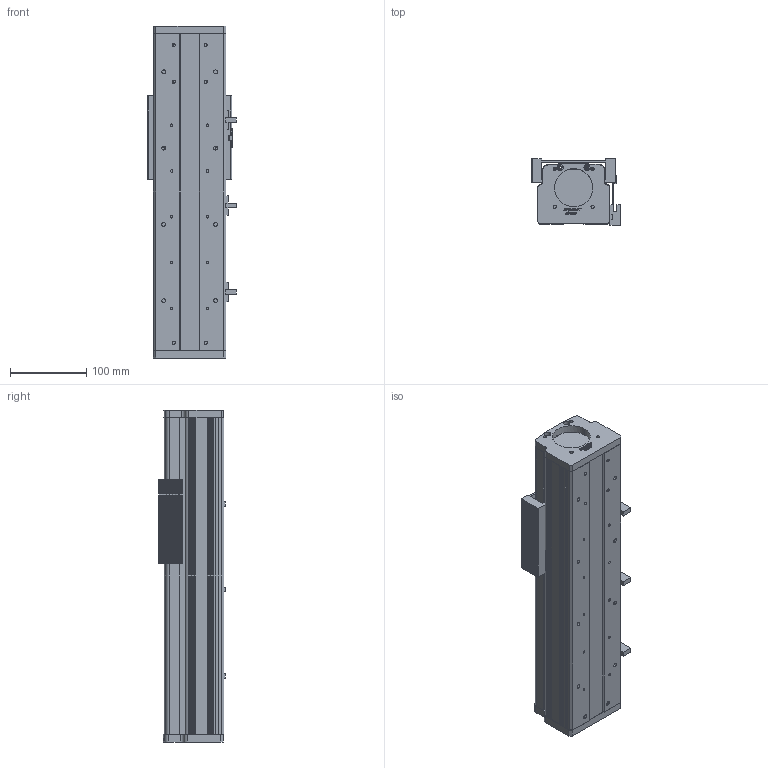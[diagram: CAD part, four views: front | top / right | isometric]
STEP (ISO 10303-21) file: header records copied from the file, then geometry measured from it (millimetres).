
FILE_DESCRIPTION (( 'STEP AP214' ), '1' );
FILE_NAME ('CF95B-C-150-FW.STEP', '2020-07-15T01:47:49', ( '微软用户' ), ( '微软中国' ), 'SwSTEP 2.0', 'SolidWorks 2016', '' );
FILE_SCHEMA (( 'AUTOMOTIVE_DESIGN' ));
Length unit declared in the file: millimetre
Products named in the file (17): 75-86-95癹弇羲壽覜茼え; 95B珨极嘐隅釱; circlips for shaft--type a large gb_GB_CONNECTING_PIECE_RING_RRA 12; hexagon socket head cap screws gb_GB_FASTENER_SCREWS_HSHCS M6X25-N; curved single coil spring lock washers gb_GB_FASTENER_WASHER_CSLW 5; CF95B耜啣; hexagon socket head cap screws gb_GB_FASTENER_SCREWS_HSHCS M4X10-N; curved single coil spring lock washers gb_GB_FASTENER_WASHER_CSLW 4; 盓傅釱; CF95B裔啣-150; CF95B賑雄啣; CF95B蹟譫釱; EGH-15-CABZnew; EGR15-150; CF95B菁釱-150; CF95B-C-150-FW; 嫖萇羲壽
Assembly tree (28 placements, depth 2):
  CF95B-C-150-FW
    CF95B菁釱-150
    EGR15-150  x2
    EGH-15-CABZnew  x2
    CF95B蹟譫釱
    CF95B賑雄啣
    CF95B裔啣-150
    盓傅釱
    curved single coil spring lock washers gb_GB_FASTENER_WASHER_CSLW 4  x4
    hexagon socket head cap screws gb_GB_FASTENER_SCREWS_HSHCS M4X10-N  x4
    CF95B耜啣
    curved single coil spring lock washers gb_GB_FASTENER_WASHER_CSLW 5  x2
    hexagon socket head cap screws gb_GB_FASTENER_SCREWS_HSHCS M6X25-N  x2
    circlips for shaft--type a large gb_GB_CONNECTING_PIECE_RING_RRA 12
    95B珨极嘐隅釱
    75-86-95癹弇羲壽覜茼え
    嫖萇羲壽  x3
Bounding box: 116.1 x 87.3 x 435 mm (x, y, z)
Volume: 1656784.1 mm3; surface area: 581457.3 mm2
Topology: 26 solids, 52 shells, 4470 faces, 16034 edges, 10932 vertices
Faces by surface type: plane 2193, bspline 1302, cylinder 725, cone 126, torus 76, sphere 48
Entity records: 143355 total; most frequent: CARTESIAN_POINT 51020, ORIENTED_EDGE 16242, DIRECTION 12316, EDGE_CURVE 9245, VERTEX_POINT 6307, LINE 5466, VECTOR 5466, AXIS2_PLACEMENT_3D 3425
